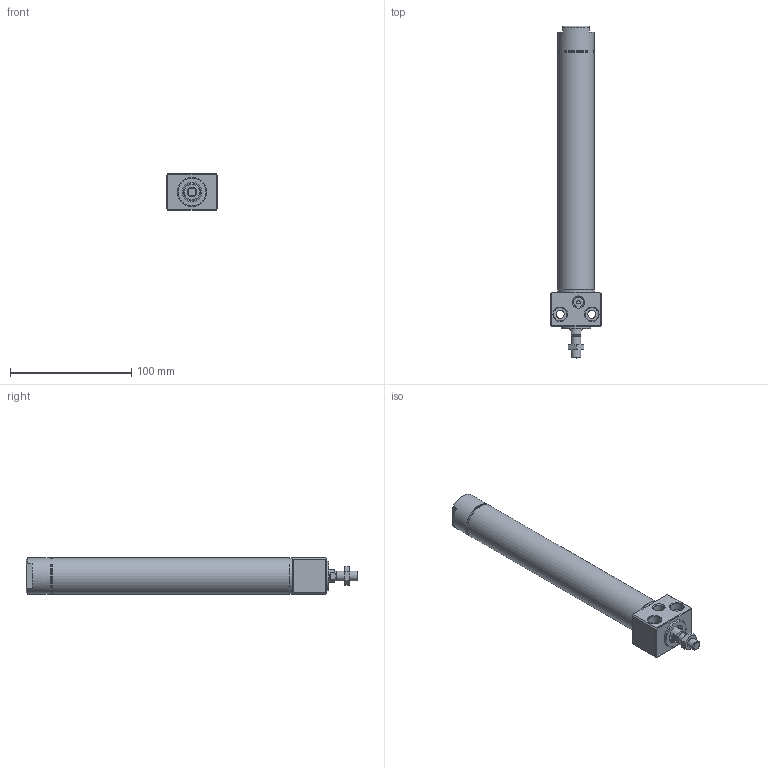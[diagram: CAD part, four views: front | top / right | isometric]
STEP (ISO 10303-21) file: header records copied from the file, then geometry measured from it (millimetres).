
FILE_DESCRIPTION((''),'2;1');
FILE_NAME('I:\3D電子目錄\氣缸\DBS\DBS\DBS25x150.stp','2007-10-08T08:35:20',('Administrator'),(''),'Autodesk Inventor 2008','Autodesk Inventor 2008','');
FILE_SCHEMA(('AUTOMOTIVE_DESIGN { 1 0 10303 214 1 1 1 1 }'));
Length unit declared in the file: millimetre
Products named in the file (1): DBS25x150
Bounding box: 42 x 273.6 x 30 mm (x, y, z)
Volume: 96852.7 mm3; surface area: 53504.7 mm2
Topology: 6 solids, 6 shells, 163 faces, 317 edges, 192 vertices
Faces by surface type: plane 72, cone 41, cylinder 35, bspline 12, torus 3
Full cylindrical faces by diameter (mm): 3 x1, 5 x1, 6 x1, 7 x1, 8 x2, 10 x1, 10.5 x1, 12 x1, 13 x2, 14 x1, 15.5 x2, 16 x2, 17 x1, 18 x2, 23 x2, 24 x1, 25 x1, 25.5 x2, 27.2 x6, 30 x4
Entity records: 3973 total; most frequent: CARTESIAN_POINT 911, DIRECTION 644, ORIENTED_EDGE 484, AXIS2_PLACEMENT_3D 284, EDGE_LOOP 278, EDGE_CURVE 242, VERTEX_POINT 188, FACE_OUTER_BOUND 163
